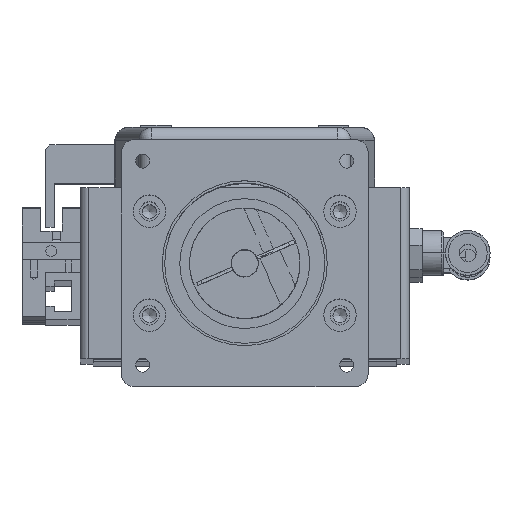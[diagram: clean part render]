
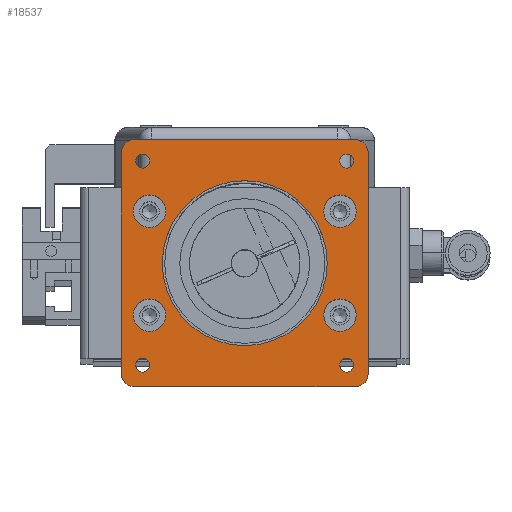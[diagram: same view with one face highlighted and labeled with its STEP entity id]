
A CAD part, top view. The second image highlights one B-rep face of the part: STEP entity #18537.
In plain terms, the highlighted planar face has unit normal (0, 0, 1).
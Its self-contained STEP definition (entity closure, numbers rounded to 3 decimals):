
#17322=CARTESIAN_POINT('',(-25.5,-28.5,12.));
#17323=VERTEX_POINT('',#17322);
#17324=CARTESIAN_POINT('',(-28.5,-25.5,12.));
#17325=VERTEX_POINT('',#17324);
#17326=CARTESIAN_POINT('',(-25.5,-25.5,12.));
#17327=DIRECTION('',(0.0,0.0,-1.));
#17328=DIRECTION('',(-0.707,-0.707,0.0));
#17329=AXIS2_PLACEMENT_3D('',#17326,#17327,#17328);
#17330=CIRCLE('',#17329,3.);
#17331=EDGE_CURVE('',#17323,#17325,#17330,.T.);
#17373=CARTESIAN_POINT('',(25.5,-28.5,12.));
#17374=VERTEX_POINT('',#17373);
#17381=CARTESIAN_POINT('',(25.5,-28.5,12.));
#17382=DIRECTION('',(-1.0,0.0,0.0));
#17383=VECTOR('',#17382,51.);
#17384=LINE('',#17381,#17383);
#17385=EDGE_CURVE('',#17374,#17323,#17384,.T.);
#17458=CARTESIAN_POINT('',(28.5,-25.5,12.));
#17459=VERTEX_POINT('',#17458);
#17460=CARTESIAN_POINT('',(25.5,-25.5,12.));
#17461=DIRECTION('',(0.0,0.0,-1.));
#17462=DIRECTION('',(0.707,-0.707,0.0));
#17463=AXIS2_PLACEMENT_3D('',#17460,#17461,#17462);
#17464=CIRCLE('',#17463,3.);
#17465=EDGE_CURVE('',#17459,#17374,#17464,.T.);
#17501=CARTESIAN_POINT('',(28.5,25.5,12.));
#17502=VERTEX_POINT('',#17501);
#17509=CARTESIAN_POINT('',(28.5,25.5,12.));
#17510=DIRECTION('',(0.0,-1.0,0.0));
#17511=VECTOR('',#17510,51.0);
#17512=LINE('',#17509,#17511);
#17513=EDGE_CURVE('',#17502,#17459,#17512,.T.);
#17523=CARTESIAN_POINT('',(-28.5,25.5,12.));
#17524=VERTEX_POINT('',#17523);
#17525=CARTESIAN_POINT('',(-25.5,28.5,12.));
#17526=VERTEX_POINT('',#17525);
#17527=CARTESIAN_POINT('',(-25.5,25.5,12.));
#17528=DIRECTION('',(0.0,0.0,-1.));
#17529=DIRECTION('',(-0.707,0.707,0.0));
#17530=AXIS2_PLACEMENT_3D('',#17527,#17528,#17529);
#17531=CIRCLE('',#17530,3.);
#17532=EDGE_CURVE('',#17524,#17526,#17531,.T.);
#17558=CARTESIAN_POINT('',(25.5,28.5,12.));
#17559=VERTEX_POINT('',#17558);
#17560=CARTESIAN_POINT('',(-25.5,28.5,12.));
#17561=DIRECTION('',(1.0,0.0,0.0));
#17562=VECTOR('',#17561,51.);
#17563=LINE('',#17560,#17562);
#17564=EDGE_CURVE('',#17526,#17559,#17563,.T.);
#17585=CARTESIAN_POINT('',(25.5,25.5,12.));
#17586=DIRECTION('',(0.0,0.0,-1.0));
#17587=DIRECTION('',(0.707,0.707,0.0));
#17588=AXIS2_PLACEMENT_3D('',#17585,#17586,#17587);
#17589=CIRCLE('',#17588,3.);
#17590=EDGE_CURVE('',#17559,#17502,#17589,.T.);
#17867=CARTESIAN_POINT('',(25.196,-23.575,12.));
#17868=VERTEX_POINT('',#17867);
#17869=CARTESIAN_POINT('',(23.575,-23.575,12.));
#17870=DIRECTION('',(0.0,0.0,-1.0));
#17871=DIRECTION('',(1.0,0.0,0.0));
#17872=AXIS2_PLACEMENT_3D('',#17869,#17870,#17871);
#17873=CIRCLE('',#17872,1.621);
#17874=EDGE_CURVE('',#17868,#17868,#17873,.T.);
#17908=CARTESIAN_POINT('',(-21.954,23.575,12.));
#17909=VERTEX_POINT('',#17908);
#17910=CARTESIAN_POINT('',(-23.575,23.575,12.));
#17911=DIRECTION('',(0.0,0.0,-1.0));
#17912=DIRECTION('',(1.0,0.0,0.0));
#17913=AXIS2_PLACEMENT_3D('',#17910,#17911,#17912);
#17914=CIRCLE('',#17913,1.621);
#17915=EDGE_CURVE('',#17909,#17909,#17914,.T.);
#17949=CARTESIAN_POINT('',(25.196,23.575,12.));
#17950=VERTEX_POINT('',#17949);
#17951=CARTESIAN_POINT('',(23.575,23.575,12.));
#17952=DIRECTION('',(0.0,0.0,-1.0));
#17953=DIRECTION('',(1.0,0.0,0.0));
#17954=AXIS2_PLACEMENT_3D('',#17951,#17952,#17953);
#17955=CIRCLE('',#17954,1.621);
#17956=EDGE_CURVE('',#17950,#17950,#17955,.T.);
#17990=CARTESIAN_POINT('',(-21.954,-23.575,12.));
#17991=VERTEX_POINT('',#17990);
#17992=CARTESIAN_POINT('',(-23.575,-23.575,12.));
#17993=DIRECTION('',(0.0,0.0,-1.0));
#17994=DIRECTION('',(1.0,0.0,0.0));
#17995=AXIS2_PLACEMENT_3D('',#17992,#17993,#17994);
#17996=CIRCLE('',#17995,1.621);
#17997=EDGE_CURVE('',#17991,#17991,#17996,.T.);
#18056=CARTESIAN_POINT('',(25.75,-12.,12.));
#18057=VERTEX_POINT('',#18056);
#18058=CARTESIAN_POINT('',(22.0,-12.,12.));
#18059=DIRECTION('',(0.0,0.0,-1.0));
#18060=DIRECTION('',(1.0,0.0,0.0));
#18061=AXIS2_PLACEMENT_3D('',#18058,#18059,#18060);
#18062=CIRCLE('',#18061,3.75);
#18063=EDGE_CURVE('',#18057,#18057,#18062,.T.);
#18166=CARTESIAN_POINT('',(-18.25,12.,12.));
#18167=VERTEX_POINT('',#18166);
#18168=CARTESIAN_POINT('',(-22.0,12.,12.));
#18169=DIRECTION('',(0.0,0.0,-1.0));
#18170=DIRECTION('',(1.0,0.0,0.0));
#18171=AXIS2_PLACEMENT_3D('',#18168,#18169,#18170);
#18172=CIRCLE('',#18171,3.75);
#18173=EDGE_CURVE('',#18167,#18167,#18172,.T.);
#18276=CARTESIAN_POINT('',(25.75,12.,12.));
#18277=VERTEX_POINT('',#18276);
#18278=CARTESIAN_POINT('',(22.0,12.,12.));
#18279=DIRECTION('',(0.0,0.0,-1.0));
#18280=DIRECTION('',(1.0,0.0,0.0));
#18281=AXIS2_PLACEMENT_3D('',#18278,#18279,#18280);
#18282=CIRCLE('',#18281,3.75);
#18283=EDGE_CURVE('',#18277,#18277,#18282,.T.);
#18386=CARTESIAN_POINT('',(-18.25,-12.,12.));
#18387=VERTEX_POINT('',#18386);
#18388=CARTESIAN_POINT('',(-22.,-12.,12.));
#18389=DIRECTION('',(0.0,0.0,-1.0));
#18390=DIRECTION('',(1.0,0.0,0.0));
#18391=AXIS2_PLACEMENT_3D('',#18388,#18389,#18390);
#18392=CIRCLE('',#18391,3.75);
#18393=EDGE_CURVE('',#18387,#18387,#18392,.T.);
#18458=CARTESIAN_POINT('',(19.05,0.,12.));
#18459=VERTEX_POINT('',#18458);
#18460=CARTESIAN_POINT('',(0.0,0.0,12.));
#18461=DIRECTION('',(0.0,0.0,-1.0));
#18462=DIRECTION('',(-1.0,0.0,0.0));
#18463=AXIS2_PLACEMENT_3D('',#18460,#18461,#18462);
#18464=CIRCLE('',#18463,19.05);
#18465=EDGE_CURVE('',#18459,#18459,#18464,.T.);
#18490=CARTESIAN_POINT('',(0.0,0.,12.));
#18491=DIRECTION('',(0.0,0.0,1.0));
#18492=DIRECTION('',(1.0,0.0,0.0));
#18493=AXIS2_PLACEMENT_3D('',#18490,#18491,#18492);
#18494=PLANE('',#18493);
#18495=ORIENTED_EDGE('',*,*,#17331,.F.);
#18496=ORIENTED_EDGE('',*,*,#17385,.F.);
#18497=ORIENTED_EDGE('',*,*,#17465,.F.);
#18498=ORIENTED_EDGE('',*,*,#17513,.F.);
#18499=ORIENTED_EDGE('',*,*,#17590,.F.);
#18500=ORIENTED_EDGE('',*,*,#17564,.F.);
#18501=ORIENTED_EDGE('',*,*,#17532,.F.);
#18502=CARTESIAN_POINT('',(-28.5,-25.5,12.));
#18503=DIRECTION('',(0.0,1.0,0.0));
#18504=VECTOR('',#18503,51.0);
#18505=LINE('',#18502,#18504);
#18506=EDGE_CURVE('',#17325,#17524,#18505,.T.);
#18507=ORIENTED_EDGE('',*,*,#18506,.F.);
#18508=EDGE_LOOP('',(#18495,#18496,#18497,#18498,#18499,#18500,#18501,#18507));
#18509=FACE_OUTER_BOUND('',#18508,.T.);
#18510=ORIENTED_EDGE('',*,*,#17874,.T.);
#18511=EDGE_LOOP('',(#18510));
#18512=FACE_BOUND('',#18511,.T.);
#18513=ORIENTED_EDGE('',*,*,#17915,.T.);
#18514=EDGE_LOOP('',(#18513));
#18515=FACE_BOUND('',#18514,.T.);
#18516=ORIENTED_EDGE('',*,*,#17956,.T.);
#18517=EDGE_LOOP('',(#18516));
#18518=FACE_BOUND('',#18517,.T.);
#18519=ORIENTED_EDGE('',*,*,#17997,.T.);
#18520=EDGE_LOOP('',(#18519));
#18521=FACE_BOUND('',#18520,.T.);
#18522=ORIENTED_EDGE('',*,*,#18063,.T.);
#18523=EDGE_LOOP('',(#18522));
#18524=FACE_BOUND('',#18523,.T.);
#18525=ORIENTED_EDGE('',*,*,#18173,.T.);
#18526=EDGE_LOOP('',(#18525));
#18527=FACE_BOUND('',#18526,.T.);
#18528=ORIENTED_EDGE('',*,*,#18283,.T.);
#18529=EDGE_LOOP('',(#18528));
#18530=FACE_BOUND('',#18529,.T.);
#18531=ORIENTED_EDGE('',*,*,#18393,.T.);
#18532=EDGE_LOOP('',(#18531));
#18533=FACE_BOUND('',#18532,.T.);
#18534=ORIENTED_EDGE('',*,*,#18465,.T.);
#18535=EDGE_LOOP('',(#18534));
#18536=FACE_BOUND('',#18535,.T.);
#18537=ADVANCED_FACE('',(#18509,#18512,#18515,#18518,#18521,#18524,#18527,#18530,#18533,#18536),#18494,.T.);
